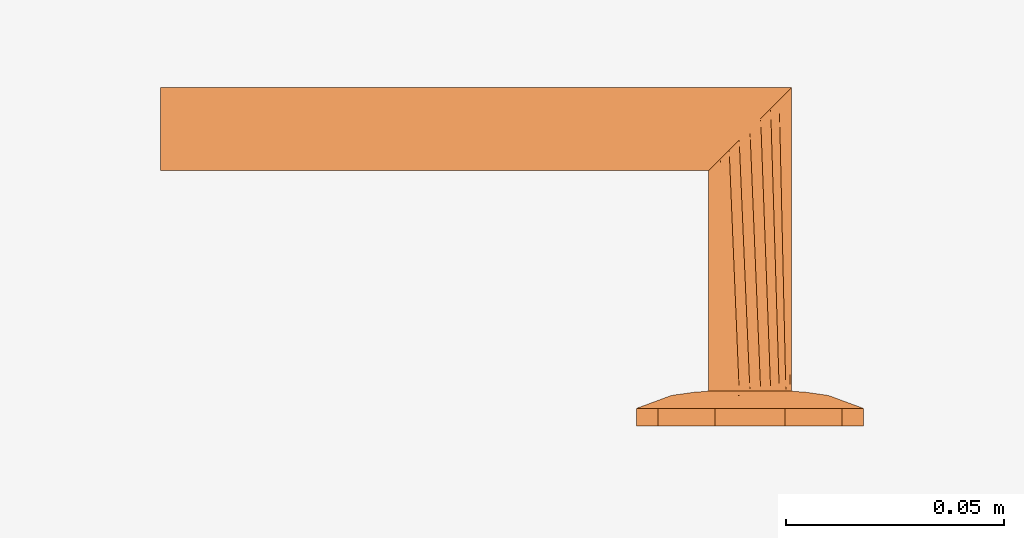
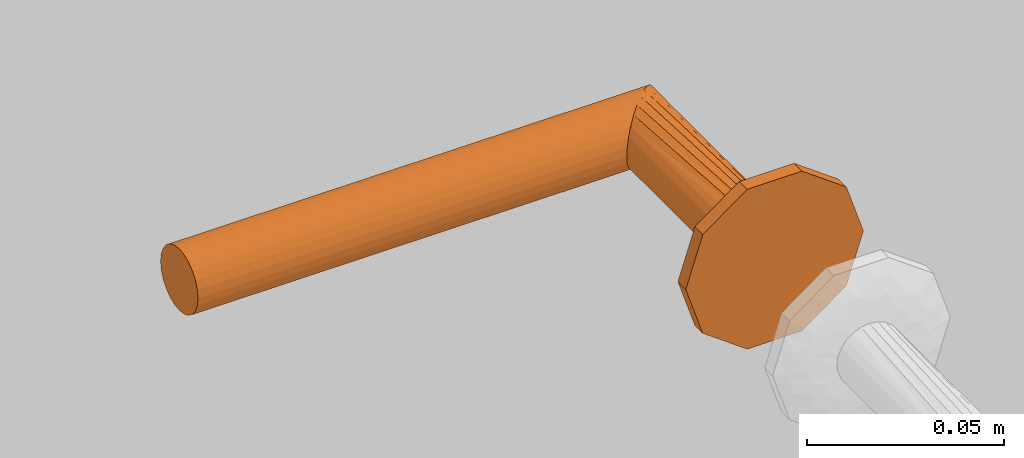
# One storey, part 22 of 42: 1 proxy.
"""IFC2X3 building model written with IfcOpenShell, lengths in millimetres."""

from ifc_helpers import new_model, entity, si_unit, converted_unit, direction, frame, origin, place, context, subcontext, project, spatial, faceted_brep, source, transform, mapped, material, type_object, type_shapes, element, save


model = new_model("IFC2X3")

# Units and contexts
model_context = context("Model", 3, precision=0.01, world=origin(), true_north=direction((6.123233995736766e-17, 1.0)))
plan_context = context("Plan", 3, precision=0.01, world=origin(), true_north=direction((6.123233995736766e-17, 1.0)))
body_context = subcontext(model_context, "Body", "Model", "MODEL_VIEW")
ifc_project = project(units=[si_unit("LENGTHUNIT", "METRE", prefix="MILLI"), converted_unit("PLANEANGLEUNIT", "DEGREE", entity("IfcPlaneAngleMeasure", 0.017453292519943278), si_unit("PLANEANGLEUNIT", "RADIAN"), dimensions=[0, 0, 0, 0, 0, 0, 0]), si_unit("AREAUNIT", "SQUARE_METRE")], contexts=[model_context, plan_context])

# Site, building, storey, space
site_placement = place(None, origin())
site = spatial("IfcSite", under=ifc_project, at=site_placement, Name="Default", CompositionType="ELEMENT")
building_placement = place(site_placement, origin())
building = spatial("IfcBuilding", under=site, at=building_placement, CompositionType="ELEMENT")
storey_placement = place(building_placement, frame((0.0, 0.0, 9465.000076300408)))
storey = spatial("IfcBuildingStorey", under=building, at=storey_placement, Name="4K", CompositionType="ELEMENT", Elevation=9465.000076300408)
space_placement = place(storey_placement, origin())
space = spatial("IfcSpace", under=storey, at=space_placement, Name="4-0.1", CompositionType="ELEMENT", InteriorOrExteriorSpace="INTERNAL")

# Proxy
ifc_material = material(Name="<Unnamed>")
building_element_proxy_type = type_object("IfcBuildingElementProxyType", Name="Door-handle_Lever_ABLOY_INOXI_3-19ss-002_RT:Default", PredefinedType="NOTDEFINED", material=ifc_material)
shared_shape = source(origin(), body_context, "Body", "Brep", [
    faceted_brep([(0.0, 0.0, 0.0), (8.034441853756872, 24.72746942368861, 0.0), (14.534441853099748, 20.00494299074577, 0.0), (21.034441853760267, 15.282416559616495, 0.0), (23.51722092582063, 7.641208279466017, 0.0), (26.0, 0.0, 0.0), (23.517220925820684, -7.641208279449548, 0.0), (0.0, 24.72746942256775, 0.0), (-8.034441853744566, 24.727469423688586, 0.0), (-14.534441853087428, 20.00494299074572, 0.0), (-21.03444185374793, 15.282416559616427, 0.0), (-23.517220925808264, 7.641208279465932, 0.0), (-26.0, 0.0, 0.0), (21.034441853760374, -15.282416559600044, 0.0), (14.534441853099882, -20.004942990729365, 0.0), (8.034441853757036, -24.72746942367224, 0.0), (0.0, -24.72746942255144, 0.0), (-23.517220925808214, -7.641208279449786, 0.0), (-21.034441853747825, -15.282416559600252, 0.0), (-14.53444185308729, -20.004942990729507, 0.0), (-8.0344418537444, -24.72746942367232, 0.0), (0.0, 0.0, 8.0), (9.500000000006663, 0.0, 8.0), (8.312500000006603, 2.056810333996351, 8.0), (7.125000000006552, 4.113620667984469, 8.0), (5.937500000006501, 6.170431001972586, 8.0), (4.7500000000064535, 8.227241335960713, 8.0), (2.375000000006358, 8.2272413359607, 8.0), (0.0, 8.227241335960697, 8.0), (-2.3749999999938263, 8.227241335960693, 8.0), (-4.749999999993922, 8.227241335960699, 8.0), (-5.937499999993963, 6.1704310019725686, 8.0), (-7.124999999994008, 4.1136206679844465, 8.0), (-8.312499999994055, 2.0568103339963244, 8.0), (-9.499999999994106, 0.0, 8.0), (-8.31249999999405, -2.0568103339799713, 8.0), (8.312500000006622, -2.0568103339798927, 8.0), (7.125000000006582, -4.113620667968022, 8.0), (5.937500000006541, -6.170431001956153, 8.0), (4.750000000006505, -8.227241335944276, 8.0), (-7.124999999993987, -4.113620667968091, 8.0), (-5.9374999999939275, -6.17043100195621, 8.0), (-4.74999999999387, -8.227241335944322, 8.0), (-2.374999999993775, -8.227241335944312, 8.0), (0.0, -8.227241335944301, 8.0), (2.3750000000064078, -8.227241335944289, 8.0), (-20.6430713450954, 6.292822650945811, 5.929480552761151), (-16.663919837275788, 7.932665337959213, 6.877259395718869), (-22.48876527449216, 10.806469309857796, 4.030771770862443), (-16.764060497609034, 3.8202578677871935, 7.1747985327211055), (-12.504579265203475, 5.179566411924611, 7.774932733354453), (-11.979136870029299, 13.678312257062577, 6.945778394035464), (-11.963426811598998, 8.62529041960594, 7.618343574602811), (-9.07172672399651, 10.31160661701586, 7.7520782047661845), (8.03444185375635, 24.727469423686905, 4.030771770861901), (0.0, 24.72746942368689, 4.030771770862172), (5.758554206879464, 20.96753300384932, 5.871476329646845), (20.643071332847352, 6.292822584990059, 5.929480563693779), (22.488765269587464, 10.806469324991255, 4.03077177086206), (16.66391982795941, 7.9326653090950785, 6.877259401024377), (9.49943163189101, 18.6436835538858, 6.154325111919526), (14.534441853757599, 20.004942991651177, 4.030771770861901), (-14.534441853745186, 20.00494299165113, 4.030771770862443), (-21.034441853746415, 15.282416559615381, 4.030771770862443), (-15.783149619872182, 11.991003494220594, 6.50080018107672), (-23.943088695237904, 6.330522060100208, 4.030771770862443), (-23.012042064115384, 0.0, 5.135401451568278), (12.50457924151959, 5.179566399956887, 7.774932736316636), (11.963426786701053, 8.625290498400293, 7.618343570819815), (16.76406041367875, 3.820257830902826, 7.17479855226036), (15.783149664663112, 11.991003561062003, 6.50080015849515), (23.01204200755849, 0.0, 5.135401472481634), (17.9853516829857, 0.0, 6.993737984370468), (8.661516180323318, 10.478936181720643, 7.768126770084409), (-3.3573143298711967, 21.197247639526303, 5.971427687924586), (-8.03444185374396, 24.727469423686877, 4.030771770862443), (-7.711266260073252, 12.76034452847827, 7.594456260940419), (-5.97325794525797, 16.43013906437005, 7.110979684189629), (-9.94191586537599, 17.061976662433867, 6.522757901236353), (11.979136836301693, 13.678312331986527, 6.945778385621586), (5.953298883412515, 16.50608604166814, 7.096344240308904), (7.511307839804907, 13.358932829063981, 7.529187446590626), (-1.5654593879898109, 15.307443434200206, 7.519134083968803), (-7.784980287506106, 20.476295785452, 5.812837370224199), (2.8135289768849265, 17.763922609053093, 6.993737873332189), (-17.985351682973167, 0.0, 6.993737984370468), (-26.0, 0.0, 4.030771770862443), (-23.51722092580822, 7.641208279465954, 4.030771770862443), (26.0, 0.0, 4.030771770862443), (24.308823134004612, 5.204907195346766, 4.030771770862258), (23.943088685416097, 6.330522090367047, 4.030771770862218), (21.03444185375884, 15.282416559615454, 4.030771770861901), (22.617646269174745, 10.40981439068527, 4.030771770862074), (20.6430713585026, -6.292822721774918, 5.929480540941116), (16.663919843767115, -7.932665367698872, 6.877259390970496), (22.48876527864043, -10.8064692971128, 4.030771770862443), (16.764060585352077, -3.8202579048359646, 7.174798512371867), (12.504579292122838, -5.17956641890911, 7.774932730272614), (11.979136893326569, -13.678312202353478, 6.9457784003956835), (11.963426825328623, -8.62529034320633, 7.618343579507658), (9.071726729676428, -10.311606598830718, 7.752078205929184), (-8.03444185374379, -24.727469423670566, 4.030771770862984), (0.0, -24.727469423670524, 4.030771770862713), (-5.758554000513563, -20.96753314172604, 5.8714763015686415), (-20.643071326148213, -6.292822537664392, 5.929480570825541), (-22.488765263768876, -10.80646934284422, 4.030771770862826), (-16.66391981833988, -7.932665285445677, 6.877259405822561), (-9.499431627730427, -18.643683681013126, 6.154325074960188), (-14.534441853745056, -20.004942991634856, 4.030771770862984), (14.53444185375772, -20.00494299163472, 4.030771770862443), (21.034441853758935, -15.282416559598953, 4.030771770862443), (15.783149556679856, -11.991003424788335, 6.5008002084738), (23.943088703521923, -6.330522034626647, 4.030771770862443), (-12.504579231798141, -5.17956638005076, 7.77493273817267), (-11.963426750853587, -8.625290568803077, 7.618343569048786), (-16.764060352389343, -3.8202577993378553, 7.174798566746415), (-15.783149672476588, -11.991003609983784, 6.500800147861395), (-8.661516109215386, -10.478936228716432, 7.768126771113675), (3.3573144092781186, -21.197247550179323, 5.971427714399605), (8.034441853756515, -24.727469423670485, 4.030771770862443), (7.711266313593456, -12.760344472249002, 7.5944562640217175), (5.9732581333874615, -16.430139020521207, 7.110979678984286), (9.941915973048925, -17.06197655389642, 6.522757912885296), (-11.979136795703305, -13.678312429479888, 6.945778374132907), (-5.953298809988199, -16.506086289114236, 7.096344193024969), (-7.511307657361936, -13.358932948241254, 7.5291874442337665), (1.5654596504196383, -15.3074431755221, 7.519134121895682), (7.784980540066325, -20.476295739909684, 5.812837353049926), (-2.81352881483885, -17.76392263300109, 6.993737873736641), (23.517220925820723, -7.64120827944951, 4.030771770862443), (-24.308823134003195, -5.20490719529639, 4.030771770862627), (-23.943088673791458, -6.330522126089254, 4.030771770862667), (-21.034441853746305, -15.282416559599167, 4.030771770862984), (-22.617646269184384, -10.409814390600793, 4.0307717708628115)], [[[0, 1, 2]], [[0, 2, 3]], [[0, 3, 4]], [[0, 4, 5]], [[0, 5, 6]], [[0, 7, 1]], [[0, 8, 7]], [[0, 9, 8]], [[0, 10, 9]], [[0, 11, 10]], [[0, 12, 11]], [[0, 6, 13]], [[0, 13, 14]], [[0, 14, 15]], [[0, 15, 16]], [[0, 17, 12]], [[0, 18, 17]], [[0, 19, 18]], [[0, 20, 19]], [[0, 16, 20]], [[21, 22, 23]], [[21, 23, 24]], [[21, 24, 25]], [[21, 25, 26]], [[21, 26, 27]], [[21, 27, 28]], [[21, 28, 29]], [[21, 29, 30]], [[21, 30, 31]], [[21, 31, 32]], [[21, 32, 33]], [[21, 33, 34]], [[21, 34, 35]], [[21, 36, 22]], [[21, 37, 36]], [[21, 38, 37]], [[21, 39, 38]], [[21, 35, 40]], [[21, 40, 41]], [[21, 41, 42]], [[21, 42, 43]], [[21, 43, 44]], [[21, 44, 45]], [[21, 45, 39]], [[46, 47, 48]], [[49, 50, 47]], [[33, 32, 50]], [[51, 52, 53]], [[32, 52, 50]], [[49, 47, 46]], [[54, 55, 56]], [[57, 58, 59]], [[60, 61, 54]], [[62, 63, 64]], [[46, 65, 66]], [[67, 59, 68]], [[23, 69, 67]], [[70, 68, 59]], [[23, 22, 69]], [[52, 51, 64]], [[71, 69, 72]], [[73, 25, 68]], [[74, 55, 75]], [[76, 77, 78]], [[70, 61, 79]], [[71, 57, 69]], [[60, 80, 81]], [[51, 76, 78]], [[77, 29, 82]], [[26, 81, 27]], [[74, 83, 77]], [[77, 82, 74]], [[74, 84, 55]], [[34, 49, 85]], [[23, 67, 24]], [[28, 84, 82]], [[74, 82, 84]], [[29, 76, 30]], [[29, 28, 82]], [[49, 34, 33]], [[47, 50, 52]], [[47, 52, 64]], [[50, 49, 33]], [[53, 76, 51]], [[52, 32, 31]], [[49, 66, 85]], [[86, 66, 65]], [[24, 67, 68]], [[83, 78, 77]], [[49, 46, 66]], [[48, 64, 63]], [[46, 48, 87, 65]], [[48, 47, 64]], [[59, 67, 69]], [[26, 73, 81]], [[79, 68, 70]], [[25, 24, 68]], [[71, 88, 89, 90]], [[22, 72, 69]], [[59, 69, 57]], [[79, 61, 60]], [[51, 62, 64]], [[70, 58, 91]], [[90, 57, 71]], [[58, 70, 59]], [[57, 90, 92]], [[79, 60, 81]], [[61, 70, 91]], [[56, 80, 60]], [[79, 81, 73]], [[80, 84, 27]], [[79, 73, 68]], [[27, 84, 28]], [[25, 73, 26]], [[77, 76, 29]], [[31, 30, 53]], [[78, 62, 51]], [[75, 62, 83]], [[78, 83, 62]], [[75, 83, 74]], [[76, 53, 30]], [[31, 53, 52]], [[81, 80, 27]], [[84, 80, 56]], [[84, 56, 55]], [[54, 56, 60]], [[93, 94, 95]], [[96, 97, 94]], [[36, 37, 97]], [[98, 99, 100]], [[37, 99, 97]], [[96, 94, 93]], [[101, 102, 103]], [[104, 105, 106]], [[107, 108, 101]], [[109, 110, 111]], [[93, 112, 71]], [[113, 106, 114]], [[35, 115, 113]], [[116, 114, 106]], [[35, 34, 115]], [[99, 98, 111]], [[66, 115, 85]], [[117, 41, 114]], [[118, 102, 119]], [[120, 121, 122]], [[116, 108, 123]], [[66, 104, 115]], [[107, 124, 125]], [[120, 45, 121]], [[121, 45, 126]], [[42, 125, 43]], [[118, 127, 121]], [[121, 126, 118]], [[118, 128, 102]], [[22, 96, 72]], [[35, 113, 40]], [[44, 128, 126]], [[118, 126, 128]], [[45, 120, 39]], [[45, 44, 126]], [[96, 22, 36]], [[94, 97, 99]], [[94, 99, 111]], [[97, 96, 36]], [[100, 120, 98]], [[99, 37, 38]], [[96, 71, 72]], [[88, 71, 112]], [[40, 113, 114]], [[127, 122, 121]], [[96, 93, 71]], [[95, 111, 110]], [[93, 95, 129, 112]], [[95, 94, 111]], [[106, 113, 115]], [[42, 117, 125]], [[123, 114, 116]], [[41, 40, 114]], [[66, 86, 130, 131]], [[34, 85, 115]], [[106, 115, 104]], [[123, 108, 107]], [[98, 109, 111]], [[116, 105, 132]], [[131, 104, 66]], [[105, 116, 106]], [[104, 131, 133]], [[123, 107, 125]], [[108, 116, 132]], [[103, 124, 107]], [[123, 125, 117]], [[124, 128, 43]], [[123, 117, 114]], [[43, 128, 44]], [[41, 117, 42]], [[38, 39, 100]], [[98, 120, 122]], [[122, 109, 98]], [[119, 109, 127]], [[122, 127, 109]], [[119, 127, 118]], [[120, 100, 39]], [[38, 100, 99]], [[125, 124, 43]], [[128, 124, 103]], [[128, 103, 102]], [[101, 103, 107]], [[9, 10, 63, 62, 75, 8]], [[11, 12, 86, 65, 87, 48, 63, 10]], [[4, 3, 92, 90, 89, 88, 5]], [[3, 91, 58]], [[55, 54, 1, 7, 8, 75]], [[3, 2, 1, 54, 61, 91]], [[13, 6, 5, 88, 112, 129, 95, 110]], [[119, 15, 14, 13, 110, 109]], [[17, 18, 133, 131, 130, 86, 12]], [[18, 132, 105]], [[102, 101, 20, 16, 15, 119]], [[18, 19, 20, 101, 108, 132]], [[57, 92, 58]], [[104, 133, 105]], [[3, 58, 92]], [[18, 105, 133]]]),
    faceted_brep([(0.0, 9.499999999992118, 8.0), (2.4587809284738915, 9.176295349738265, 8.0), (4.7499999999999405, 8.22724133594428, 8.0), (6.717514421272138, 6.7175144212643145, 8.0), (8.227241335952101, 4.749999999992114, 8.0), (9.17629534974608, 2.458780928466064, 8.0), (9.499999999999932, 0.0, 8.0), (9.17629534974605, -2.458780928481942, 8.0), (8.22724133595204, -4.75000000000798, 8.0), (6.717514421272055, -6.717514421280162, 8.0), (4.7499999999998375, -8.227241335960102, 8.0), (2.4587809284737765, -9.176295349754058, 8.0), (0.0, -9.500000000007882, 8.0), (-2.4587809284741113, -9.176295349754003, 8.0), (-4.750000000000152, -8.227241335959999, 8.0), (-6.717514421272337, -6.717514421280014, 8.0), (-8.227241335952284, -4.750000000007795, 8.0), (-9.176295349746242, -2.458780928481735, 8.0), (-9.500000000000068, 0.0, 8.0), (-9.176295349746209, 2.4587809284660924, 8.0), (-8.227241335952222, 4.74999999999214, 8.0), (-6.717514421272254, 6.717514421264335, 8.0), (-4.7500000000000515, 8.227241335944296, 8.0), (-2.4587809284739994, 9.176295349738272, 8.0), (-6.717514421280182, -6.7175144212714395, 61.282485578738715), (-8.227241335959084, -4.7499999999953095, 59.772758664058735), (-9.176295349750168, -2.458780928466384, 58.82370465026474), (-2.4587809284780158, -9.176295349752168, 65.54121907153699), (-4.750000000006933, -8.227241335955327, 63.25000000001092), (-9.500000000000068, 0.0, 58.50000000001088), (0.0, -9.50000000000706, 68.0), (2.4587809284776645, -9.17629534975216, 70.45878092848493), (4.750000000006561, -8.227241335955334, 72.75000000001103), (6.717514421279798, -6.7175144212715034, 74.71751442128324), (9.17629534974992, -2.458780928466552, 77.17629534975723), (8.22724133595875, -4.749999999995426, 76.22724133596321), (9.499999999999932, 0.0, 77.50000000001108), (9.176295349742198, 2.4587809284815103, 77.1762953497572), (8.227241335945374, 4.750000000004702, 76.22724133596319), (4.749999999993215, 8.227241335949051, 72.75000000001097), (6.7175144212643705, 6.717514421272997, 74.7175144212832), (2.4587809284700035, 9.17629534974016, 70.45878092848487), (-2.4587809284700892, 9.176295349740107, 65.54121907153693), (0.0, 9.49999999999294, 68.0), (-6.717514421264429, 6.717514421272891, 61.282485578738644), (-4.749999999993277, 8.227241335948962, 63.250000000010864), (-9.176295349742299, 2.458780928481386, 58.8237046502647), (-8.227241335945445, 4.750000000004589, 59.77275866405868), (-135.0, 9.500000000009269, 68.0), (-135.0, 9.176295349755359, 65.54121907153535), (-135.0, 8.227241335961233, 63.25000000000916), (-135.0, 6.7175144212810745, 61.28248557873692), (-135.0, 4.750000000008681, 59.772758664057), (-135.0, 2.458780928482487, 58.82370465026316), (-135.0, 0.0, 58.50000000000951), (-135.0, -2.458780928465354, 58.823704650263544), (-135.0, -4.749999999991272, 59.772758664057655), (-135.0, -6.717514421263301, 61.28248557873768), (-135.0, -8.227241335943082, 63.250000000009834), (-135.0, -9.17629534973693, 65.54121907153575), (-135.0, -9.499999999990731, 68.0), (-135.0, -9.17629534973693, 70.45878092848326), (-135.0, -8.227241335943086, 72.75000000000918), (-135.0, -6.717514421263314, 74.71751442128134), (-135.0, -4.749999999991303, 76.22724133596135), (-135.0, -2.4587809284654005, 77.17629534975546), (-135.0, 0.0, 77.5000000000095), (-135.0, 2.4587809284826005, 77.17629534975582), (-135.0, 4.750000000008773, 76.22724133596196), (-135.0, 6.717514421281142, 74.71751442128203), (-135.0, 8.227241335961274, 72.75000000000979), (-135.0, 9.176295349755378, 70.4587809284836)], [[[0, 1, 2, 3, 4, 5, 6, 7, 8, 9, 10, 11, 12, 13, 14, 15, 16, 17, 18, 19, 20, 21, 22, 23]], [[15, 24, 25, 16]], [[16, 25, 26, 17]], [[27, 28, 12]], [[12, 28, 13]], [[13, 28, 24]], [[18, 17, 26, 29]], [[24, 15, 14]], [[14, 13, 24]], [[11, 30, 27]], [[31, 9, 32]], [[32, 8, 33]], [[34, 35, 7]], [[7, 35, 33]], [[36, 34, 7, 6]], [[30, 11, 10]], [[11, 27, 12]], [[33, 8, 7]], [[8, 32, 9]], [[31, 10, 9]], [[10, 31, 30]], [[37, 36, 6, 5]], [[37, 5, 38]], [[39, 40, 4]], [[5, 40, 38]], [[41, 39, 3]], [[5, 4, 40]], [[42, 43, 1]], [[2, 1, 43]], [[2, 41, 3]], [[39, 4, 3]], [[2, 43, 41]], [[23, 44, 45]], [[0, 45, 42]], [[19, 18, 29, 46]], [[20, 19, 46, 47]], [[21, 20, 47, 44]], [[23, 22, 44]], [[45, 0, 23]], [[44, 22, 21]], [[1, 0, 42]], [[48, 49, 50, 51, 52, 53, 54, 55, 56, 57, 58, 59, 60, 61, 62, 63, 64, 65, 66, 67, 68, 69, 70, 71]], [[26, 25, 56, 55]], [[29, 26, 55, 54]], [[28, 27, 59, 58]], [[24, 28, 58, 57]], [[25, 24, 57, 56]], [[27, 30, 60, 59]], [[32, 33, 63, 62]], [[31, 32, 62, 61]], [[34, 36, 66, 65]], [[35, 34, 65, 64]], [[33, 35, 64, 63]], [[61, 60, 30, 31]], [[38, 68, 67, 37]], [[37, 67, 66, 36]], [[41, 71, 70, 39]], [[39, 70, 69, 40]], [[40, 69, 68, 38]], [[48, 71, 41, 43]], [[44, 51, 50, 45]], [[45, 50, 49, 42]], [[29, 54, 53, 46]], [[46, 53, 52, 47]], [[47, 52, 51, 44]], [[42, 49, 48, 43]]]),
])
type_shapes(building_element_proxy_type, [shared_shape])
proxy_placement = place(space_placement, frame((984.9967674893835, 4050.0, 2565.999923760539), z_axis=(0.0, 1.0, 0.0), x_axis=(1.0, 0.0, 0.0)))
element("IfcBuildingElementProxy", 1, at=proxy_placement, inside=space, type_object=building_element_proxy_type, material=ifc_material, Name="Door-handle_Lever_ABLOY_INOXI_3-19ss-002_RT:Default", ObjectType="Door-handle_Lever_ABLOY_INOXI_3-19ss-002_RT:Default", context=body_context, shape_type="MappedRepresentation", body=[
    mapped(shared_shape, transform((0.0, 0.0, 0.0), scale=1.0)),
])

save(model, "model.ifc")
